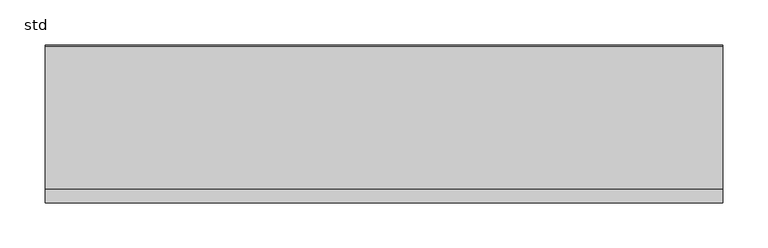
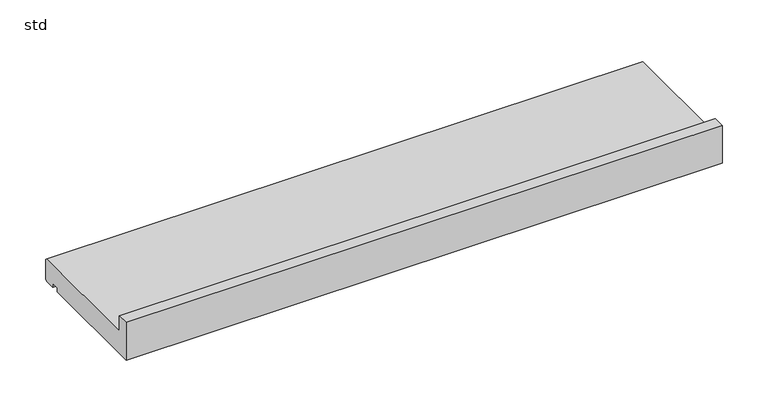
"""IFC4 building model written with IfcOpenShell, lengths in millimetres: proxy geometry, 400_35_NS_raamdorpel_natuursteen_klik_variabel : std."""

from ifc_helpers import new_model, si_unit, frame, origin, place, context, project, spatial, polyline, outline, extrude, source, transform, mapped, element, save


def std_eb05143a(model_context):
    return source(origin(), model_context, "Body", "SweptSolid", [
        extrude(outline(polyline([(173.0, 30.0), (175.0, 28.0), (175.0, 2.0), (173.0, 0.0), (160.0, 0.0), (160.0, 5.0), (150.0, 5.0), (150.0, 0.0), (0.0, 0.0), (0.0, 50.0), (15.0, 50.0), (15.0, 30.0), (173.0, 30.0)])), frame((-375.0, 0.0, 0.0), z_axis=(1.0, 0.0, 0.0), x_axis=(0.0, 1.0, 0.0)), (0.0, 0.0, 1.0), 750.0),
    ])


if __name__ == "__main__":
    model = new_model("IFC4")
    model_context = context("Model", 3, world=origin())
    ifc_project = project(units=[si_unit("LENGTHUNIT", "METRE", prefix="MILLI")], contexts=[model_context])
    site = spatial("IfcSite", under=ifc_project)
    building = spatial("IfcBuilding", under=site)
    placement = place(None, origin())
    std_shape = std_eb05143a(model_context)
    element("IfcBuildingElementProxy", 1, Name="400_35_NS_raamdorpel_natuursteen_klik_variabel : std", ObjectType="400_35_NS_raamdorpel_natuursteen_klik_variabel : std", at=placement, inside=building, context=model_context, shape_type="MappedRepresentation", body=[
        mapped(std_shape, transform((0.0, 0.0, 0.0), x_axis=(1.0, 0.0, 0.0), y_axis=(0.0, 1.0, 0.0), z_axis=(0.0, 0.0, 1.0))),
    ])
    save(model, "model.ifc")
